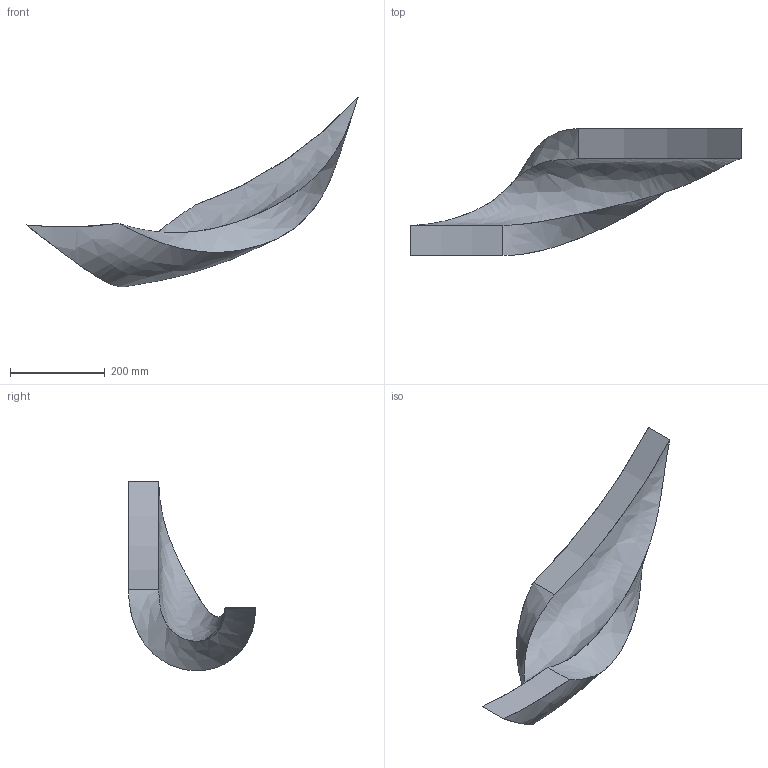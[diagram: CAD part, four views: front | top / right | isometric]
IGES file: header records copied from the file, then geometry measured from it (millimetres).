
Start section: SolidWorks IGES file using analytic representation for surfaces
Global section: file name: Z:\Konstruktionen\Teil III Umlenkung\Negativkörper\Umlenkkanal\Kanal.IGS; native system: SolidWorks 2010; preprocessor: SolidWorks 2010; author: weltzl; date: 110914.144229; units: millimetre
Bounding box: 701.91 x 268 x 400.78 mm (x, y, z)
Surface area: 331221.4 mm2 (no closed solid volume)
Topology: 0 solids, 0 shells, 6 faces, 295 edges, 295 vertices
Faces by surface type: bspline 4, revolution 2
